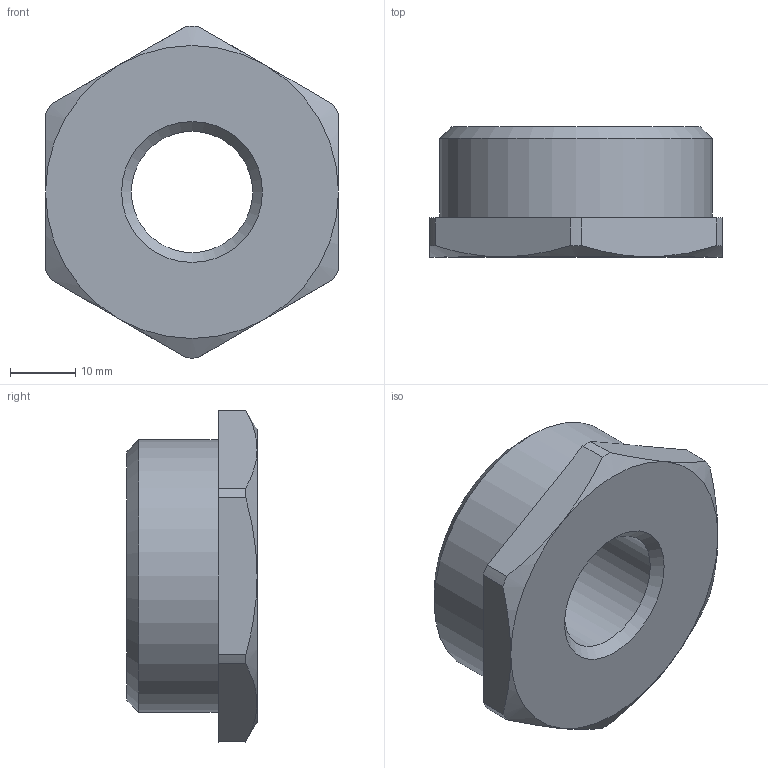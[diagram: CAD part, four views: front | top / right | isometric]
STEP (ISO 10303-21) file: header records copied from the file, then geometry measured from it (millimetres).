
FILE_DESCRIPTION(('STEP AP203'), '1');
FILE_NAME('ÂÐ.753128.032 - VTr.581.N.0704 Ôèò. ðåçüá', '2024-07-04T10:24:42', ('Boss'), (''), 'C3D Converter', 'C3D Toolkit', '');
FILE_SCHEMA(('CONFIG_CONTROL_DESIGN'));
Length unit declared in the file: millimetre
Products named in the file (1): ВР.753128.032
Bounding box: 45 x 20 x 51 mm (x, y, z)
Volume: 23927.3 mm3; surface area: 6578.7 mm2
Topology: 1 solids, 1 shells, 23 faces, 54 edges, 34 vertices
Faces by surface type: plane 9, cylinder 8, cone 6
Full cylindrical faces by diameter (mm): 18.632 x1, 41.91 x1
Entity records: 968 total; most frequent: CARTESIAN_POINT 421, DIRECTION 110, ORIENTED_EDGE 98, EDGE_CURVE 49, AXIS2_PLACEMENT_3D 46, VERTEX_POINT 34, EDGE_LOOP 31, ADVANCED_FACE 23
